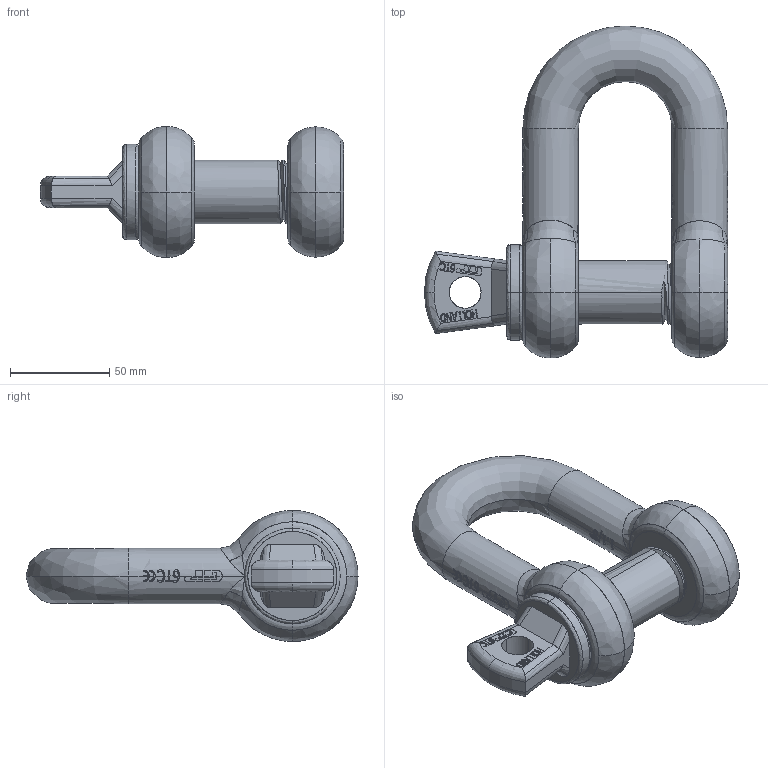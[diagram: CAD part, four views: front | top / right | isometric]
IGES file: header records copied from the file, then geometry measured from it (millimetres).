
Start section: START RECORD GO HERE.
Global section: file name: 9,5.igs; native system: Solidworks 2009      A Version 5 Release 17 ; preprocessor: Solidworks                 ; author: v.b.; organization: P4; date: 20090807.081744; units: millimetre
Bounding box: 152.5 x 167 x 66 mm (x, y, z)
Surface area: 64290.4 mm2 (no closed solid volume)
Topology: 0 solids, 0 shells, 685 faces, 4564 edges, 4556 vertices
Faces by surface type: bspline 303, plane 240, revolution 142
